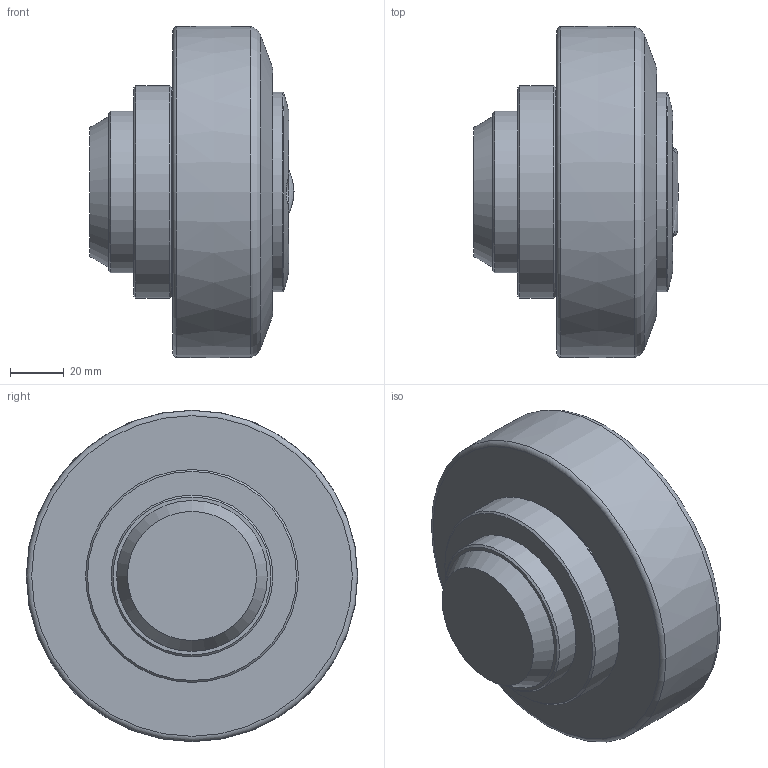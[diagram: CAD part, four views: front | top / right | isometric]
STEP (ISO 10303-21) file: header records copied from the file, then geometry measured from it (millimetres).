
FILE_DESCRIPTION(/* description */ (''),/* implementation_level */ '2;1');
FILE_NAME(/* name */ 'C:\Users\gabriele oddo\Desktop\400-0079.step',/* time_stamp */ '2023-07-26T08:19:10+02:00',/* author */ ('gabriele oddo'),/* organization */ (''),/* preprocessor_version */ 'ST-DEVELOPER v19',/* originating_system */ 'Autodesk Inventor 2023',/* authorisation */ '');
FILE_SCHEMA (('AUTOMOTIVE_DESIGN { 1 0 10303 214 3 1 1 }'));
Length unit declared in the file: millimetre
Products named in the file (1): 400-0079
Bounding box: 75.8 x 123 x 122.99 mm (x, y, z)
Volume: 558726.9 mm3; surface area: 43100.9 mm2
Topology: 1 solids, 1 shells, 42 faces, 98 edges, 66 vertices
Faces by surface type: plane 23, cylinder 6, cone 6, bspline 4, torus 3
Full cylindrical faces by diameter (mm): 10.7 x2, 60 x1, 74 x1, 77 x1, 79 x1
Entity records: 1535 total; most frequent: CARTESIAN_POINT 478, DIRECTION 202, ORIENTED_EDGE 196, EDGE_CURVE 98, AXIS2_PLACEMENT_3D 76, VERTEX_POINT 66, EDGE_LOOP 50, LINE 50
